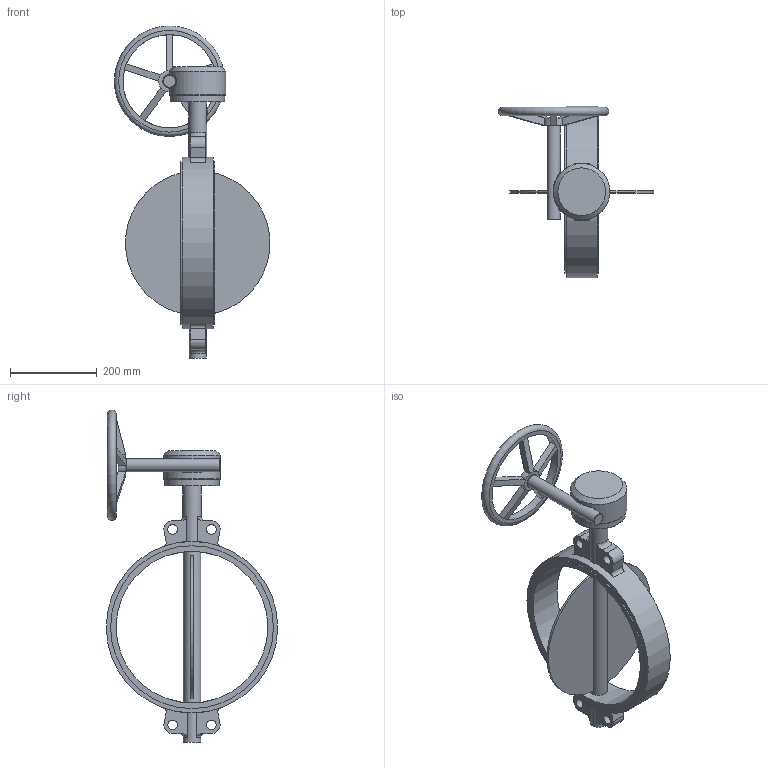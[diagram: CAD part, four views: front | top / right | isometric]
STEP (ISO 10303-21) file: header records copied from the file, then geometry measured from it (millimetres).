
FILE_DESCRIPTION(('STEP AP203'), '1');
FILE_NAME('青蜮铕 017W.Y_DN350_PN10_疱潴牝铕', '', ('UNSPECIFIED'), ('UNSPECIFIED'), 'ASCON STEP Converter 1.6', 'ASCON Math Kernel', '');
FILE_SCHEMA(('CONFIG_CONTROL_DESIGN'));
Length unit declared in the file: millimetre
Bounding box: 358.55 x 395.6 x 766 mm (x, y, z)
Volume: 4917878.6 mm3; surface area: 635572.9 mm2
Topology: 1 solids, 1 shells, 138 faces, 335 edges, 208 vertices
Faces by surface type: plane 64, cylinder 45, cone 19, torus 8, bspline 2
Full cylindrical faces by diameter (mm): 10.106 x4, 12 x4, 22 x4, 30 x1, 40 x2, 42 x1, 125 x1, 130 x1, 215 x1, 350 x1, 375.6 x2, 395.6 x1
Entity records: 7005 total; most frequent: CARTESIAN_POINT 2742, DIRECTION 668, ORIENTED_EDGE 586, EDGE_CURVE 293, AXIS2_PLACEMENT_3D 282, EDGE_LOOP 207, VERTEX_POINT 204, CIRCLE 145
